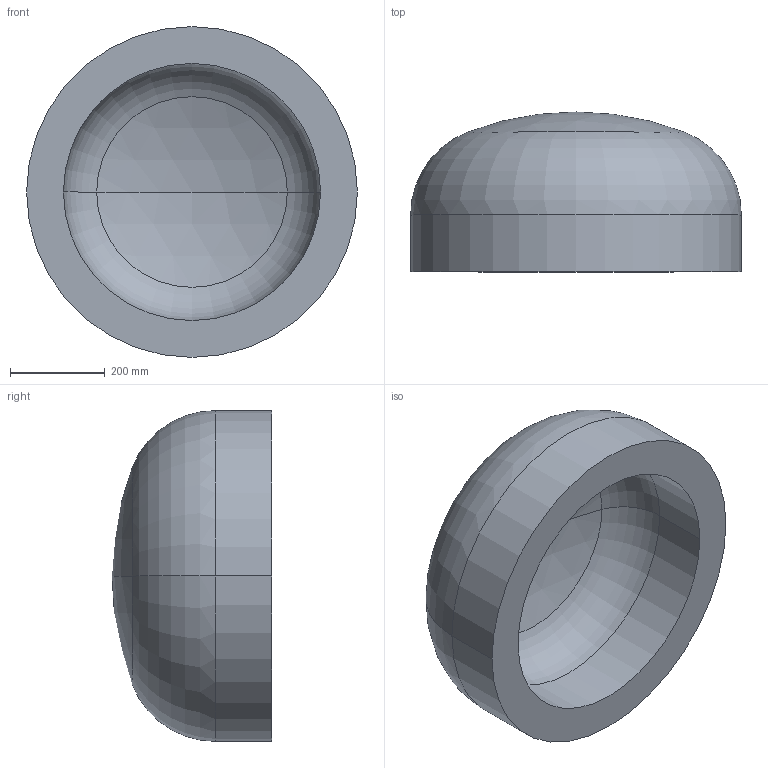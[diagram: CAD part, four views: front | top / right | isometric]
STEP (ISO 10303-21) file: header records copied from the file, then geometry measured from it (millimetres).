
FILE_DESCRIPTION (( 'STEP AP203' ), '1' );
FILE_NAME ('DIN 28013 Korbbogenform_-_Boden DIN 28013 - 700 x 120 - I - s=78.step', '2016-07-01T08:10:36', ( '' ), ( '' ), 'SwSTEP 2.0', 'SolidWorks 2013', '' );
FILE_SCHEMA (( 'CONFIG_CONTROL_DESIGN' ));
Length unit declared in the file: millimetre
Products named in the file (1): DIN 28013 Korbbogenform_-_Boden DIN 28013 - 700 x 120 - I - s=78
Bounding box: 700 x 338.17 x 700 mm (x, y, z)
Volume: 54705081.2 mm3; surface area: 1567854.1 mm2
Topology: 1 solids, 1 shells, 13 faces, 24 edges, 14 vertices
Faces by surface type: torus 4, cylinder 4, sphere 4, plane 1
Entity records: 407 total; most frequent: DIRECTION 72, CARTESIAN_POINT 52, ORIENTED_EDGE 48, AXIS2_PLACEMENT_3D 34, EDGE_CURVE 24, CIRCLE 20, EDGE_LOOP 14, VERTEX_POINT 14
